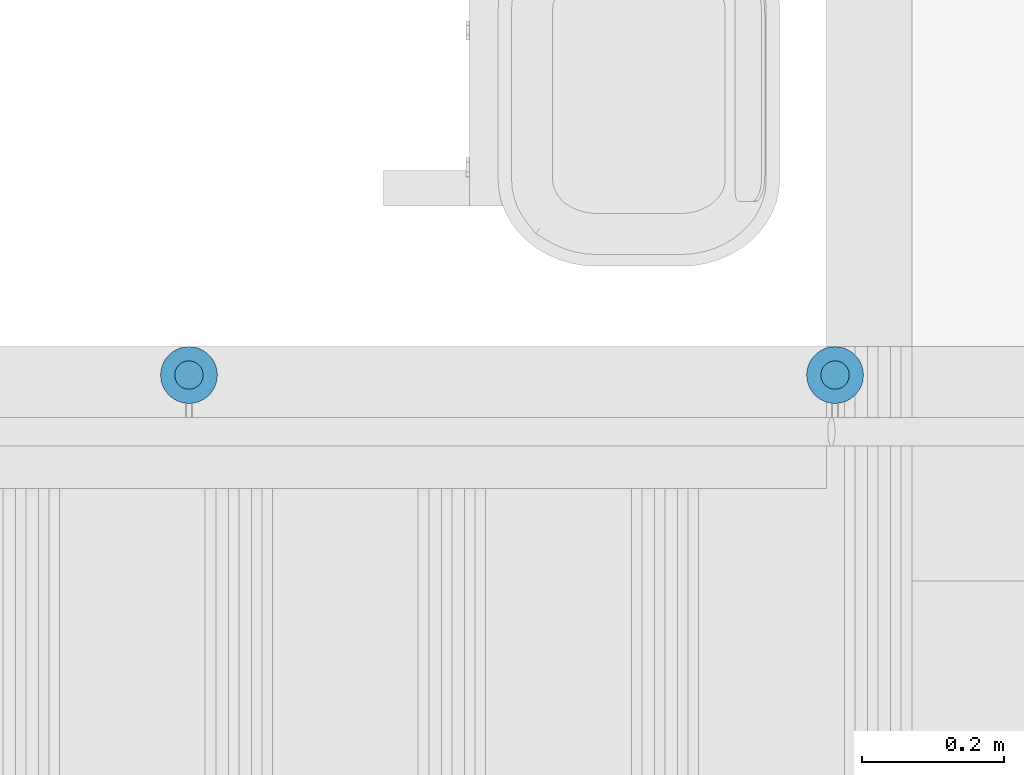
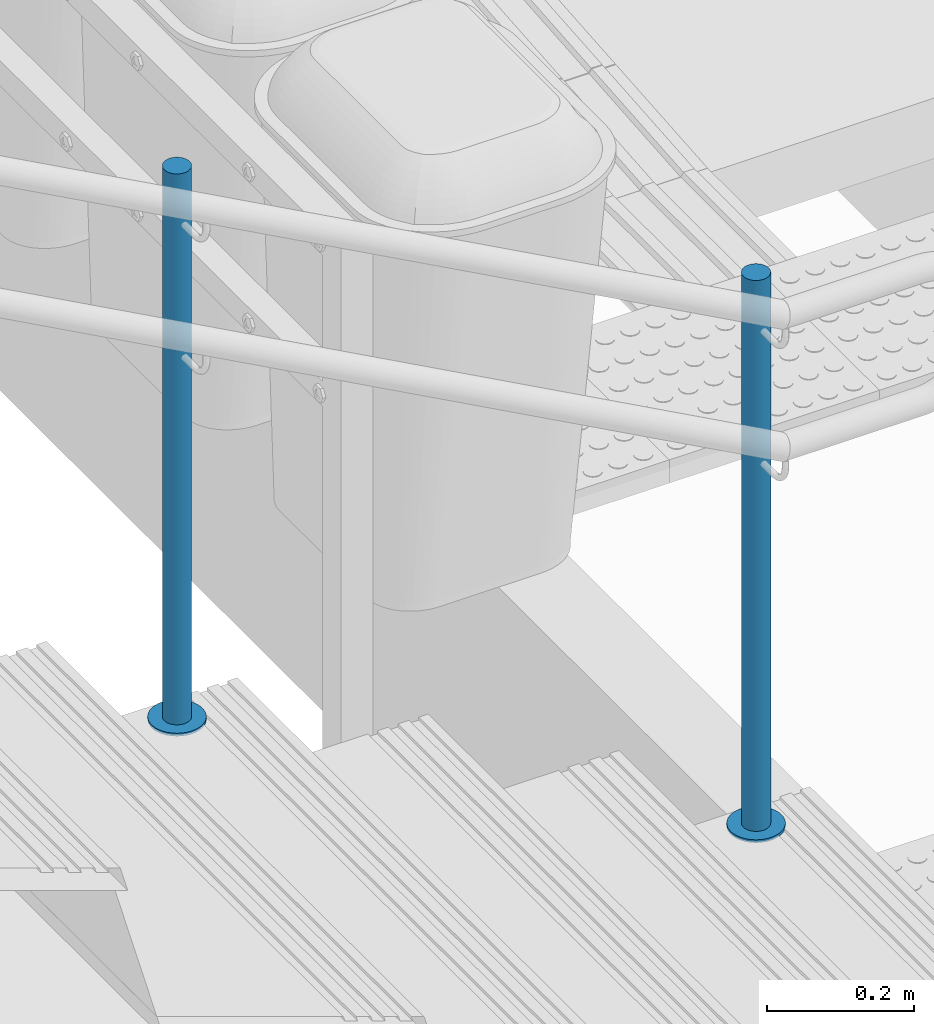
# One storey, part 110 of 237: 4 building element parts, 1 element without a shape of its own.
"""IFC2X3 building model written with IfcOpenShell, lengths in millimetres."""

from ifc_helpers import new_model, entity, si_unit, converted_unit, derived_unit, money_unit, direction, frame, origin_with_axes, place, context, subcontext, project, spatial, faceted_brep, material, type_object, element, aggregate, save


model = new_model("IFC2X3")

# Units and contexts
model_context = context("Model", 3, precision=0.01, world=origin_with_axes(), true_north=direction((0.0, 1.0)))
body_context = subcontext(model_context, "Body", "Model", "MODEL_VIEW")
ifc_project = project(units=[si_unit("LENGTHUNIT", "METRE", prefix="MILLI"), si_unit("AREAUNIT", "SQUARE_METRE"), si_unit("VOLUMEUNIT", "CUBIC_METRE"), converted_unit("PLANEANGLEUNIT", "DEGREE", entity("IfcPlaneAngleMeasure", 0.0174532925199), si_unit("PLANEANGLEUNIT", "RADIAN"), dimensions=[0, 0, 0, 0, 0, 0, 0]), money_unit("USD"), converted_unit("TIMEUNIT", "Year", entity("IfcTimeMeasure", 31556926.0), si_unit("TIMEUNIT", "SECOND"), dimensions=[0, 0, 1, 0, 0, 0, 0]), si_unit("MASSUNIT", "GRAM", prefix="KILO"), si_unit("THERMODYNAMICTEMPERATUREUNIT", "DEGREE_CELSIUS"), si_unit("LUMINOUSINTENSITYUNIT", "LUMEN"), si_unit("ENERGYUNIT", "JOULE", prefix="MEGA"), derived_unit("THERMALCONDUCTANCEUNIT", [(si_unit("POWERUNIT", "WATT"), 1), (si_unit("LENGTHUNIT", "METRE"), -1), (si_unit("THERMODYNAMICTEMPERATUREUNIT", "KELVIN"), -1)]), derived_unit("SPECIFICHEATCAPACITYUNIT", [(si_unit("ENERGYUNIT", "JOULE"), 1), (si_unit("MASSUNIT", "GRAM", prefix="KILO"), -1), (si_unit("THERMODYNAMICTEMPERATUREUNIT", "KELVIN"), -1)]), derived_unit("MASSDENSITYUNIT", [(si_unit("MASSUNIT", "GRAM", prefix="KILO"), 1), (si_unit("VOLUMEUNIT", "CUBIC_METRE"), -1)])], contexts=[model_context])

# Site, building, storey
site_placement = place(None, origin_with_axes())
site = spatial("IfcSite", under=ifc_project, at=site_placement, Name="Local", CompositionType="ELEMENT")
building_placement = place(site_placement, origin_with_axes())
building = spatial("IfcBuilding", under=site, at=building_placement, Name="Construção", CompositionType="ELEMENT")
storey_placement = place(building_placement, origin_with_axes())
storey = spatial("IfcBuildingStorey", under=building, at=storey_placement, Name="Pavimento Térreo", CompositionType="ELEMENT", Elevation=0.0)

# Railing, building element parts
railing_type = type_object("IfcRailingType", Name="Tipo de Guarda-Corpo", PredefinedType="NOTDEFINED")
railing_placement = place(storey_placement, frame((66896.327552, 25657.5940361, -3366.72358116), z_axis=(0.0, 0.0, 1.0), x_axis=(1.0, 0.0, 0.0)))
railing = element("IfcRailing", 1, at=railing_placement, inside=storey, type_object=railing_type, Name="Guarda-Corpo - 002", PredefinedType="NOTDEFINED")
ifc_material_1 = material(Name="Aço - Inoxidável")
building_element_part_1_placement = place(railing_placement, origin_with_axes())
building_element_part_1 = element("IfcBuildingElementPart", 2, at=building_element_part_1_placement, material=ifc_material_1, Name="Aço - Inoxidável", context=body_context, shape_type="Brep", body=[
    faceted_brep([(-38.4202403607, -20.3038449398, 26.7833330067), (-41.893203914, -20.0, 26.7833330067), (-41.893203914, -20.0, 941.783333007), (-38.4202403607, -20.3038449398, 941.783333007), (-45.3661674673, -20.3038449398, 26.7833330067), (-35.0528010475, -21.2061475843, 26.7833330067), (-31.893203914, -22.6794919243, 26.7833330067), (-29.0374517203, -24.6791111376, 26.7833330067), (-26.5723150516, -27.1442478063, 26.7833330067), (-24.5726958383, -30.0, 26.7833330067), (-23.0993514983, -33.1595971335, 26.7833330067), (-22.1970488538, -36.5270364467, 26.7833330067), (-21.893203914, -40.0, 26.7833330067), (-22.1970488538, -43.4729635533, 26.7833330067), (-23.0993514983, -46.8404028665, 26.7833330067), (-24.5726958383, -50.0, 26.7833330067), (-26.5723150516, -52.8557521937, 26.7833330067), (-29.0374517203, -55.3208888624, 26.7833330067), (-31.893203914, -57.3205080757, 26.7833330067), (-35.0528010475, -58.7938524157, 26.7833330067), (-38.4202403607, -59.6961550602, 26.7833330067), (-41.893203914, -60.0, 26.7833330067), (-45.3661674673, -59.6961550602, 26.7833330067), (-48.7336067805, -58.7938524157, 26.7833330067), (-51.893203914, -57.3205080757, 26.7833330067), (-54.7489561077, -55.3208888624, 26.7833330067), (-57.2140927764, -52.8557521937, 26.7833330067), (-59.2137119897, -50.0, 26.7833330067), (-60.6870563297, -46.8404028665, 26.7833330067), (-61.5893589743, -43.4729635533, 26.7833330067), (-61.893203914, -40.0, 26.7833330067), (-61.5893589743, -36.5270364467, 26.7833330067), (-60.6870563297, -33.1595971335, 26.7833330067), (-59.2137119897, -30.0, 26.7833330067), (-57.2140927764, -27.1442478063, 26.7833330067), (-54.7489561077, -24.6791111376, 26.7833330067), (-51.893203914, -22.6794919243, 26.7833330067), (-48.7336067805, -21.2061475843, 26.7833330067), (-45.3661674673, -20.3038449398, 941.783333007), (-22.1970488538, -43.4729635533, 941.783333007), (-21.893203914, -40.0, 941.783333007), (-22.1970488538, -36.5270364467, 941.783333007), (-23.0993514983, -33.1595971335, 941.783333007), (-24.5726958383, -30.0, 941.783333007), (-26.5723150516, -27.1442478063, 941.783333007), (-29.0374517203, -24.6791111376, 941.783333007), (-31.893203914, -22.6794919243, 941.783333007), (-35.0528010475, -21.2061475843, 941.783333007), (-48.7336067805, -21.2061475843, 941.783333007), (-51.893203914, -22.6794919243, 941.783333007), (-54.7489561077, -24.6791111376, 941.783333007), (-57.2140927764, -27.1442478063, 941.783333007), (-59.2137119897, -30.0, 941.783333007), (-60.6870563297, -33.1595971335, 941.783333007), (-61.5893589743, -36.5270364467, 941.783333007), (-61.893203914, -40.0, 941.783333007), (-61.5893589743, -43.4729635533, 941.783333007), (-60.6870563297, -46.8404028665, 941.783333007), (-59.2137119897, -50.0, 941.783333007), (-57.2140927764, -52.8557521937, 941.783333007), (-54.7489561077, -55.3208888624, 941.783333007), (-51.893203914, -57.3205080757, 941.783333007), (-48.7336067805, -58.7938524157, 941.783333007), (-45.3661674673, -59.6961550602, 941.783333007), (-41.893203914, -60.0, 941.783333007), (-38.4202403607, -59.6961550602, 941.783333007), (-35.0528010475, -58.7938524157, 941.783333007), (-31.893203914, -57.3205080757, 941.783333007), (-29.0374517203, -55.3208888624, 941.783333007), (-26.5723150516, -52.8557521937, 941.783333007), (-24.5726958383, -50.0, 941.783333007), (-23.0993514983, -46.8404028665, 941.783333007)], [[[0, 1, 2, 3]], [[4, 1, 0, 5, 6, 7, 8, 9, 10, 11, 12, 13, 14, 15, 16, 17, 18, 19, 20, 21, 22, 23, 24, 25, 26, 27, 28, 29, 30, 31, 32, 33, 34, 35, 36, 37]], [[1, 4, 38, 2]], [[39, 40, 41, 42, 43, 44, 45, 46, 47, 3, 2, 38, 48, 49, 50, 51, 52, 53, 54, 55, 56, 57, 58, 59, 60, 61, 62, 63, 64, 65, 66, 67, 68, 69, 70, 71]], [[5, 0, 3, 47]], [[6, 5, 47, 46]], [[7, 6, 46, 45]], [[8, 7, 45, 44]], [[9, 8, 44, 43]], [[10, 9, 43, 42]], [[11, 10, 42, 41]], [[12, 11, 41, 40]], [[13, 12, 40, 39]], [[14, 13, 39, 71]], [[15, 14, 71, 70]], [[16, 15, 70, 69]], [[17, 16, 69, 68]], [[18, 17, 68, 67]], [[19, 18, 67, 66]], [[20, 19, 66, 65]], [[21, 20, 65, 64]], [[22, 21, 64, 63]], [[23, 22, 63, 62]], [[24, 23, 62, 61]], [[25, 24, 61, 60]], [[26, 25, 60, 59]], [[27, 26, 59, 58]], [[28, 27, 58, 57]], [[29, 28, 57, 56]], [[30, 29, 56, 55]], [[31, 30, 55, 54]], [[32, 31, 54, 53]], [[33, 32, 53, 52]], [[34, 33, 52, 51]], [[35, 34, 51, 50]], [[36, 35, 50, 49]], [[37, 36, 49, 48]], [[4, 37, 48, 38]]]),
])
ifc_material_2 = material(Name="Alumínio")
building_element_part_2_placement = place(railing_placement, origin_with_axes())
building_element_part_2 = element("IfcBuildingElementPart", 3, at=building_element_part_2_placement, material=ifc_material_2, Name="Alumínio", context=body_context, shape_type="Brep", body=[
    faceted_brep([(-81.893203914, -40.0, 21.7833330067), (-81.2855140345, -46.9459271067, 21.7833330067), (-81.2855140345, -46.9459271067, 26.7833330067), (-81.893203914, -40.0, 26.7833330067), (-81.2855140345, -33.0540728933, 21.7833330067), (-79.4809087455, -26.319194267, 21.7833330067), (-76.5342200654, -20.0, 21.7833330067), (-72.5349816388, -14.2884956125, 21.7833330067), (-67.6047083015, -9.35822227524, 21.7833330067), (-61.893203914, -5.35898384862, 21.7833330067), (-55.574009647, -2.41229516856, 21.7833330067), (-48.8391310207, -0.607689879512, 21.7833330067), (-41.893203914, 0.0, 21.7833330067), (-34.9472768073, -0.607689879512, 21.7833330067), (-28.212398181, -2.41229516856, 21.7833330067), (-21.893203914, -5.35898384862, 21.7833330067), (-16.1816995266, -9.35822227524, 21.7833330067), (-11.2514261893, -14.2884956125, 21.7833330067), (-7.25218776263, -20.0, 21.7833330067), (-4.30549908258, -26.319194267, 21.7833330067), (-2.50089379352, -33.0540728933, 21.7833330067), (-1.89320391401, -40.0, 21.7833330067), (-2.50089379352, -46.9459271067, 21.7833330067), (-4.30549908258, -53.680805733, 21.7833330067), (-7.25218776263, -60.0, 21.7833330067), (-11.2514261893, -65.7115043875, 21.7833330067), (-16.1816995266, -70.6417777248, 21.7833330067), (-21.893203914, -74.6410161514, 21.7833330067), (-28.212398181, -77.5877048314, 21.7833330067), (-34.9472768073, -79.3923101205, 21.7833330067), (-41.893203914, -80.0, 21.7833330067), (-48.8391310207, -79.3923101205, 21.7833330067), (-55.574009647, -77.5877048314, 21.7833330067), (-61.893203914, -74.6410161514, 21.7833330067), (-67.6047083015, -70.6417777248, 21.7833330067), (-72.5349816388, -65.7115043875, 21.7833330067), (-76.5342200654, -60.0, 21.7833330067), (-79.4809087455, -53.680805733, 21.7833330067), (-79.4809087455, -53.680805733, 26.7833330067), (-76.5342200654, -60.0, 26.7833330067), (-72.5349816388, -65.7115043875, 26.7833330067), (-67.6047083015, -70.6417777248, 26.7833330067), (-61.893203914, -74.6410161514, 26.7833330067), (-55.574009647, -77.5877048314, 26.7833330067), (-48.8391310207, -79.3923101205, 26.7833330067), (-41.893203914, -80.0, 26.7833330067), (-34.9472768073, -79.3923101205, 26.7833330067), (-28.212398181, -77.5877048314, 26.7833330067), (-21.893203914, -74.6410161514, 26.7833330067), (-16.1816995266, -70.6417777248, 26.7833330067), (-11.2514261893, -65.7115043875, 26.7833330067), (-7.25218776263, -60.0, 26.7833330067), (-4.30549908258, -53.680805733, 26.7833330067), (-2.50089379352, -46.9459271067, 26.7833330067), (-1.89320391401, -40.0, 26.7833330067), (-2.50089379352, -33.0540728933, 26.7833330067), (-4.30549908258, -26.319194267, 26.7833330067), (-7.25218776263, -20.0, 26.7833330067), (-11.2514261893, -14.2884956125, 26.7833330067), (-16.1816995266, -9.35822227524, 26.7833330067), (-21.893203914, -5.35898384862, 26.7833330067), (-28.212398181, -2.41229516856, 26.7833330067), (-34.9472768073, -0.607689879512, 26.7833330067), (-41.893203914, 0.0, 26.7833330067), (-48.8391310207, -0.607689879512, 26.7833330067), (-55.574009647, -2.41229516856, 26.7833330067), (-61.893203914, -5.35898384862, 26.7833330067), (-67.6047083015, -9.35822227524, 26.7833330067), (-72.5349816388, -14.2884956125, 26.7833330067), (-76.5342200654, -20.0, 26.7833330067), (-79.4809087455, -26.319194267, 26.7833330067), (-81.2855140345, -33.0540728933, 26.7833330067)], [[[0, 1, 2, 3]], [[0, 4, 5, 6, 7, 8, 9, 10, 11, 12, 13, 14, 15, 16, 17, 18, 19, 20, 21, 22, 23, 24, 25, 26, 27, 28, 29, 30, 31, 32, 33, 34, 35, 36, 37, 1]], [[1, 37, 38, 2]], [[3, 2, 38, 39, 40, 41, 42, 43, 44, 45, 46, 47, 48, 49, 50, 51, 52, 53, 54, 55, 56, 57, 58, 59, 60, 61, 62, 63, 64, 65, 66, 67, 68, 69, 70, 71]], [[4, 0, 3, 71]], [[5, 4, 71, 70]], [[6, 5, 70, 69]], [[7, 6, 69, 68]], [[8, 7, 68, 67]], [[9, 8, 67, 66]], [[10, 9, 66, 65]], [[11, 10, 65, 64]], [[12, 11, 64, 63]], [[13, 12, 63, 62]], [[14, 13, 62, 61]], [[15, 14, 61, 60]], [[16, 15, 60, 59]], [[17, 16, 59, 58]], [[18, 17, 58, 57]], [[19, 18, 57, 56]], [[20, 19, 56, 55]], [[21, 20, 55, 54]], [[22, 21, 54, 53]], [[23, 22, 53, 52]], [[24, 23, 52, 51]], [[25, 24, 51, 50]], [[26, 25, 50, 49]], [[27, 26, 49, 48]], [[28, 27, 48, 47]], [[29, 28, 47, 46]], [[30, 29, 46, 45]], [[31, 30, 45, 44]], [[32, 31, 44, 43]], [[33, 32, 43, 42]], [[34, 33, 42, 41]], [[35, 34, 41, 40]], [[36, 35, 40, 39]], [[37, 36, 39, 38]]]),
])
building_element_part_3_placement = place(railing_placement, origin_with_axes())
building_element_part_3 = element("IfcBuildingElementPart", 4, at=building_element_part_3_placement, material=ifc_material_1, Name="Aço - Inoxidável", context=body_context, shape_type="Brep", body=[
    faceted_brep([(-948.207995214, -20.3038449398, 522.23857374), (-951.680958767, -20.0, 522.23857374), (-951.680958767, -20.0, 1437.23857374), (-948.207995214, -20.3038449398, 1437.23857374), (-955.15392232, -20.3038449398, 522.23857374), (-944.8405559, -21.2061475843, 522.23857374), (-941.680958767, -22.6794919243, 522.23857374), (-938.825206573, -24.6791111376, 522.23857374), (-936.360069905, -27.1442478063, 522.23857374), (-934.360450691, -30.0, 522.23857374), (-932.887106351, -33.1595971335, 522.23857374), (-931.984803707, -36.5270364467, 522.23857374), (-931.680958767, -40.0, 522.23857374), (-931.984803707, -43.4729635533, 522.23857374), (-932.887106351, -46.8404028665, 522.23857374), (-934.360450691, -50.0, 522.23857374), (-936.360069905, -52.8557521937, 522.23857374), (-938.825206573, -55.3208888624, 522.23857374), (-941.680958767, -57.3205080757, 522.23857374), (-944.8405559, -58.7938524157, 522.23857374), (-948.207995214, -59.6961550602, 522.23857374), (-951.680958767, -60.0, 522.23857374), (-955.15392232, -59.6961550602, 522.23857374), (-958.521361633, -58.7938524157, 522.23857374), (-961.680958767, -57.3205080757, 522.23857374), (-964.536710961, -55.3208888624, 522.23857374), (-967.001847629, -52.8557521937, 522.23857374), (-969.001466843, -50.0, 522.23857374), (-970.474811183, -46.8404028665, 522.23857374), (-971.377113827, -43.4729635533, 522.23857374), (-971.680958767, -40.0, 522.23857374), (-971.377113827, -36.5270364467, 522.23857374), (-970.474811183, -33.1595971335, 522.23857374), (-969.001466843, -30.0, 522.23857374), (-967.001847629, -27.1442478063, 522.23857374), (-964.536710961, -24.6791111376, 522.23857374), (-961.680958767, -22.6794919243, 522.23857374), (-958.521361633, -21.2061475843, 522.23857374), (-955.15392232, -20.3038449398, 1437.23857374), (-931.984803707, -43.4729635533, 1437.23857374), (-931.680958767, -40.0, 1437.23857374), (-931.984803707, -36.5270364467, 1437.23857374), (-932.887106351, -33.1595971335, 1437.23857374), (-934.360450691, -30.0, 1437.23857374), (-936.360069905, -27.1442478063, 1437.23857374), (-938.825206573, -24.6791111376, 1437.23857374), (-941.680958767, -22.6794919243, 1437.23857374), (-944.8405559, -21.2061475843, 1437.23857374), (-958.521361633, -21.2061475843, 1437.23857374), (-961.680958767, -22.6794919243, 1437.23857374), (-964.536710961, -24.6791111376, 1437.23857374), (-967.001847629, -27.1442478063, 1437.23857374), (-969.001466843, -30.0, 1437.23857374), (-970.474811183, -33.1595971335, 1437.23857374), (-971.377113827, -36.5270364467, 1437.23857374), (-971.680958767, -40.0, 1437.23857374), (-971.377113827, -43.4729635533, 1437.23857374), (-970.474811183, -46.8404028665, 1437.23857374), (-969.001466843, -50.0, 1437.23857374), (-967.001847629, -52.8557521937, 1437.23857374), (-964.536710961, -55.3208888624, 1437.23857374), (-961.680958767, -57.3205080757, 1437.23857374), (-958.521361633, -58.7938524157, 1437.23857374), (-955.15392232, -59.6961550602, 1437.23857374), (-951.680958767, -60.0, 1437.23857374), (-948.207995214, -59.6961550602, 1437.23857374), (-944.8405559, -58.7938524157, 1437.23857374), (-941.680958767, -57.3205080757, 1437.23857374), (-938.825206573, -55.3208888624, 1437.23857374), (-936.360069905, -52.8557521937, 1437.23857374), (-934.360450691, -50.0, 1437.23857374), (-932.887106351, -46.8404028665, 1437.23857374)], [[[0, 1, 2, 3]], [[4, 1, 0, 5, 6, 7, 8, 9, 10, 11, 12, 13, 14, 15, 16, 17, 18, 19, 20, 21, 22, 23, 24, 25, 26, 27, 28, 29, 30, 31, 32, 33, 34, 35, 36, 37]], [[1, 4, 38, 2]], [[39, 40, 41, 42, 43, 44, 45, 46, 47, 3, 2, 38, 48, 49, 50, 51, 52, 53, 54, 55, 56, 57, 58, 59, 60, 61, 62, 63, 64, 65, 66, 67, 68, 69, 70, 71]], [[5, 0, 3, 47]], [[6, 5, 47, 46]], [[7, 6, 46, 45]], [[8, 7, 45, 44]], [[9, 8, 44, 43]], [[10, 9, 43, 42]], [[11, 10, 42, 41]], [[12, 11, 41, 40]], [[13, 12, 40, 39]], [[14, 13, 39, 71]], [[15, 14, 71, 70]], [[16, 15, 70, 69]], [[17, 16, 69, 68]], [[18, 17, 68, 67]], [[19, 18, 67, 66]], [[20, 19, 66, 65]], [[21, 20, 65, 64]], [[22, 21, 64, 63]], [[23, 22, 63, 62]], [[24, 23, 62, 61]], [[25, 24, 61, 60]], [[26, 25, 60, 59]], [[27, 26, 59, 58]], [[28, 27, 58, 57]], [[29, 28, 57, 56]], [[30, 29, 56, 55]], [[31, 30, 55, 54]], [[32, 31, 54, 53]], [[33, 32, 53, 52]], [[34, 33, 52, 51]], [[35, 34, 51, 50]], [[36, 35, 50, 49]], [[37, 36, 49, 48]], [[4, 37, 48, 38]]]),
])
building_element_part_4_placement = place(railing_placement, origin_with_axes())
building_element_part_4 = element("IfcBuildingElementPart", 5, at=building_element_part_4_placement, material=ifc_material_2, Name="Alumínio", context=body_context, shape_type="Brep", body=[
    faceted_brep([(-991.680958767, -40.0, 517.23857374), (-991.073268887, -46.9459271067, 517.23857374), (-991.073268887, -46.9459271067, 522.23857374), (-991.680958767, -40.0, 522.23857374), (-991.073268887, -33.0540728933, 517.23857374), (-989.268663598, -26.319194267, 517.23857374), (-986.321974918, -20.0, 517.23857374), (-982.322736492, -14.2884956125, 517.23857374), (-977.392463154, -9.35822227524, 517.23857374), (-971.680958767, -5.35898384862, 517.23857374), (-965.3617645, -2.41229516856, 517.23857374), (-958.626885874, -0.607689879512, 517.23857374), (-951.680958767, 0.0, 517.23857374), (-944.73503166, -0.607689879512, 517.23857374), (-938.000153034, -2.41229516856, 517.23857374), (-931.680958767, -5.35898384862, 517.23857374), (-925.969454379, -9.35822227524, 517.23857374), (-921.039181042, -14.2884956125, 517.23857374), (-917.039942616, -20.0, 517.23857374), (-914.093253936, -26.319194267, 517.23857374), (-912.288648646, -33.0540728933, 517.23857374), (-911.680958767, -40.0, 517.23857374), (-912.288648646, -46.9459271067, 517.23857374), (-914.093253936, -53.680805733, 517.23857374), (-917.039942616, -60.0, 517.23857374), (-921.039181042, -65.7115043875, 517.23857374), (-925.969454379, -70.6417777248, 517.23857374), (-931.680958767, -74.6410161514, 517.23857374), (-938.000153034, -77.5877048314, 517.23857374), (-944.73503166, -79.3923101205, 517.23857374), (-951.680958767, -80.0, 517.23857374), (-958.626885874, -79.3923101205, 517.23857374), (-965.3617645, -77.5877048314, 517.23857374), (-971.680958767, -74.6410161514, 517.23857374), (-977.392463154, -70.6417777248, 517.23857374), (-982.322736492, -65.7115043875, 517.23857374), (-986.321974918, -60.0, 517.23857374), (-989.268663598, -53.680805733, 517.23857374), (-989.268663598, -53.680805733, 522.23857374), (-986.321974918, -60.0, 522.23857374), (-982.322736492, -65.7115043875, 522.23857374), (-977.392463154, -70.6417777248, 522.23857374), (-971.680958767, -74.6410161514, 522.23857374), (-965.3617645, -77.5877048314, 522.23857374), (-958.626885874, -79.3923101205, 522.23857374), (-951.680958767, -80.0, 522.23857374), (-944.73503166, -79.3923101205, 522.23857374), (-938.000153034, -77.5877048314, 522.23857374), (-931.680958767, -74.6410161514, 522.23857374), (-925.969454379, -70.6417777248, 522.23857374), (-921.039181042, -65.7115043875, 522.23857374), (-917.039942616, -60.0, 522.23857374), (-914.093253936, -53.680805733, 522.23857374), (-912.288648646, -46.9459271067, 522.23857374), (-911.680958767, -40.0, 522.23857374), (-912.288648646, -33.0540728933, 522.23857374), (-914.093253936, -26.319194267, 522.23857374), (-917.039942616, -20.0, 522.23857374), (-921.039181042, -14.2884956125, 522.23857374), (-925.969454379, -9.35822227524, 522.23857374), (-931.680958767, -5.35898384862, 522.23857374), (-938.000153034, -2.41229516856, 522.23857374), (-944.73503166, -0.607689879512, 522.23857374), (-951.680958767, 0.0, 522.23857374), (-958.626885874, -0.607689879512, 522.23857374), (-965.3617645, -2.41229516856, 522.23857374), (-971.680958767, -5.35898384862, 522.23857374), (-977.392463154, -9.35822227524, 522.23857374), (-982.322736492, -14.2884956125, 522.23857374), (-986.321974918, -20.0, 522.23857374), (-989.268663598, -26.319194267, 522.23857374), (-991.073268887, -33.0540728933, 522.23857374)], [[[0, 1, 2, 3]], [[0, 4, 5, 6, 7, 8, 9, 10, 11, 12, 13, 14, 15, 16, 17, 18, 19, 20, 21, 22, 23, 24, 25, 26, 27, 28, 29, 30, 31, 32, 33, 34, 35, 36, 37, 1]], [[1, 37, 38, 2]], [[3, 2, 38, 39, 40, 41, 42, 43, 44, 45, 46, 47, 48, 49, 50, 51, 52, 53, 54, 55, 56, 57, 58, 59, 60, 61, 62, 63, 64, 65, 66, 67, 68, 69, 70, 71]], [[4, 0, 3, 71]], [[5, 4, 71, 70]], [[6, 5, 70, 69]], [[7, 6, 69, 68]], [[8, 7, 68, 67]], [[9, 8, 67, 66]], [[10, 9, 66, 65]], [[11, 10, 65, 64]], [[12, 11, 64, 63]], [[13, 12, 63, 62]], [[14, 13, 62, 61]], [[15, 14, 61, 60]], [[16, 15, 60, 59]], [[17, 16, 59, 58]], [[18, 17, 58, 57]], [[19, 18, 57, 56]], [[20, 19, 56, 55]], [[21, 20, 55, 54]], [[22, 21, 54, 53]], [[23, 22, 53, 52]], [[24, 23, 52, 51]], [[25, 24, 51, 50]], [[26, 25, 50, 49]], [[27, 26, 49, 48]], [[28, 27, 48, 47]], [[29, 28, 47, 46]], [[30, 29, 46, 45]], [[31, 30, 45, 44]], [[32, 31, 44, 43]], [[33, 32, 43, 42]], [[34, 33, 42, 41]], [[35, 34, 41, 40]], [[36, 35, 40, 39]], [[37, 36, 39, 38]]]),
])
aggregate(railing, [building_element_part_1, building_element_part_2, building_element_part_3, building_element_part_4])

save(model, "model.ifc")
